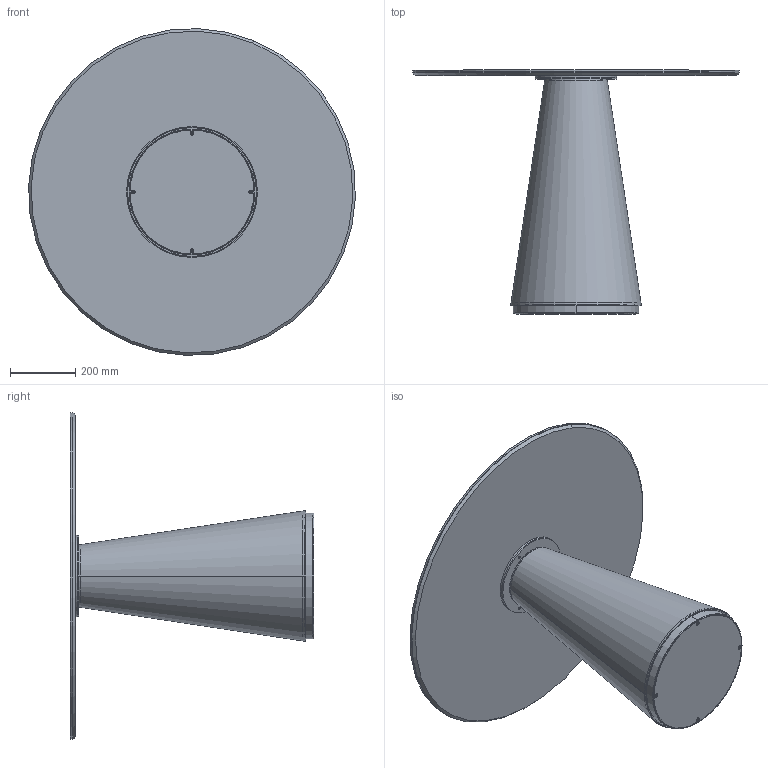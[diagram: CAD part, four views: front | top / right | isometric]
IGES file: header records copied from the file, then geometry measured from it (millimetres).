
Start section: SolidWorks IGES file using analytic representation for surfaces
Global section: file name: Y:\eforma\TECNICO\SOLIDWORKS\E-FORMA\5-TAVOLINI BISTRO\TED\02 parts\TE30C.IGS; native system: SolidWorks 2022; preprocessor: SolidWorks 2022; author: eforma.tech; date: 240808.095208; units: millimetre
Bounding box: 999.3 x 745.5 x 999.3 mm (x, y, z)
Volume: 14154280.6 mm3; surface area: 5089996.6 mm2
Topology: 18 solids, 18 shells, 437 faces, 941 edges, 532 vertices
Faces by surface type: revolution 239, plane 195, bspline 3
